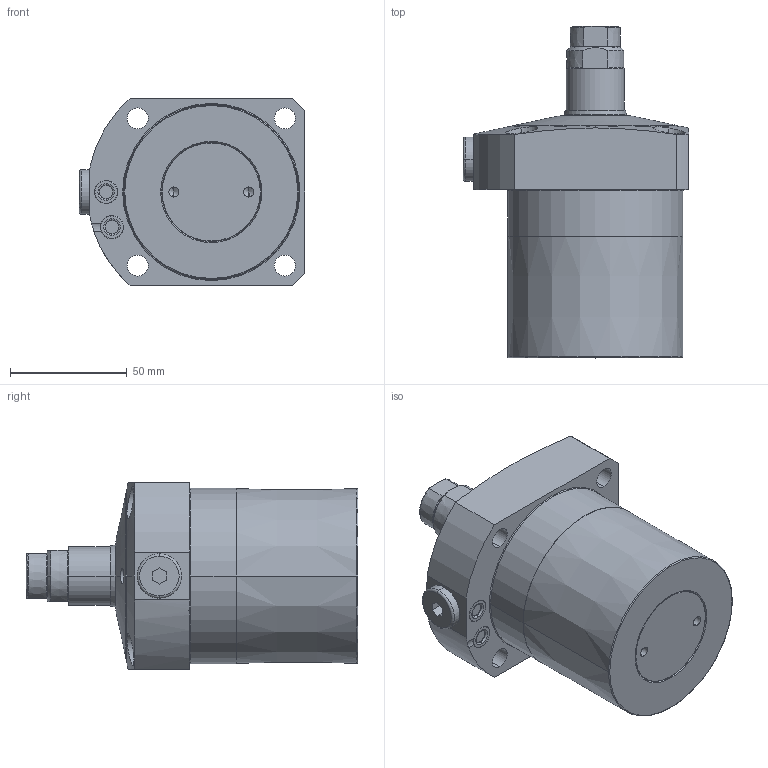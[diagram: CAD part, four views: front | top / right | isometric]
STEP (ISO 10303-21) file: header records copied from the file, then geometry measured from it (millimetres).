
FILE_DESCRIPTION(/* description */ (''),/* implementation_level */ '2;1');
FILE_NAME(/* name */ 'KFSS75.stp',/* time_stamp */ '2026-02-06T09:36:13+08:00',/* author */ (''),/* organization */ (''),/* preprocessor_version */ 'ST-DEVELOPER v16.7',/* originating_system */ 'SIEMENS PLM Software NX 12.0',/* authorisation */ '');
FILE_SCHEMA (('AUTOMOTIVE_DESIGN { 1 0 10303 214 3 1 1 1 }'));
Length unit declared in the file: millimetre
Products named in the file (8): XLC-M16_contactbolt5278; XLC-M16_o-ring2797; KFSS75-01; KFSS75-05; KFSS75-02; KFSS75-04; KFSS75-03; LC0753-Cx-E_step
Assembly tree (8 placements, depth 3):
  LC0753-Cx-E_step
    KFSS75-03
      XLC-M16_o-ring2797
      XLC-M16_contactbolt5278
    KFSS75-04
    KFSS75-02
    KFSS75-05  x2
    KFSS75-01
Bounding box: 96.5 x 142 x 80 mm (x, y, z)
Volume: 508727.1 mm3; surface area: 52380.4 mm2
Topology: 7 solids, 7 shells, 236 faces, 524 edges, 314 vertices
Faces by surface type: cylinder 72, torus 60, plane 52, cone 50, bspline 2
Entity records: 6828 total; most frequent: CARTESIAN_POINT 1482, DIRECTION 1182, ORIENTED_EDGE 980, AXIS2_PLACEMENT_3D 515, EDGE_CURVE 490, VERTEX_POINT 300, CIRCLE 284, EDGE_LOOP 258
